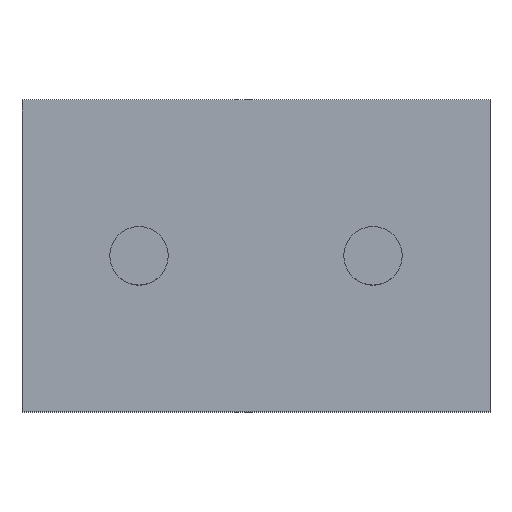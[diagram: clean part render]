
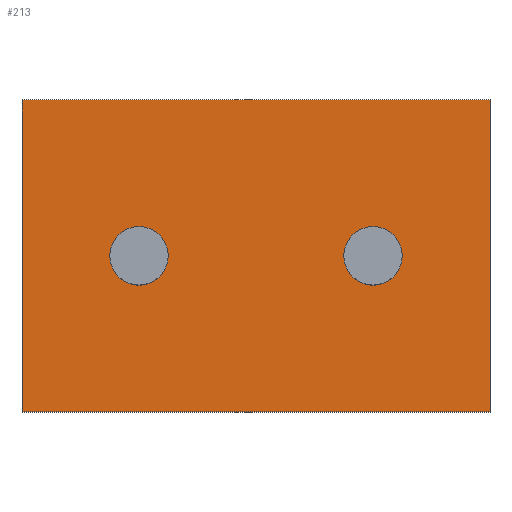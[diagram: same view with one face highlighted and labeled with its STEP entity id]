
A CAD part, top view. The second image highlights one B-rep face of the part: STEP entity #213.
In plain terms, the highlighted planar face has unit normal (0, 0, 1).
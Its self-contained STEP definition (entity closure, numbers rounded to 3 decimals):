
#24 = VERTEX_POINT('',#25);
#25 = CARTESIAN_POINT('',(-60.,-40.,5.));
#32 = PLANE('',#33);
#33 = AXIS2_PLACEMENT_3D('',#34,#35,#36);
#34 = CARTESIAN_POINT('',(-60.,-40.,-5.));
#35 = DIRECTION('',(1.,0.,0.));
#36 = DIRECTION('',(0.,0.,1.));
#44 = PLANE('',#45);
#45 = AXIS2_PLACEMENT_3D('',#46,#47,#48);
#46 = CARTESIAN_POINT('',(-60.,-40.,-5.));
#47 = DIRECTION('',(0.,1.,0.));
#48 = DIRECTION('',(0.,0.,1.));
#85 = VERTEX_POINT('',#86);
#86 = CARTESIAN_POINT('',(-60.,40.,5.));
#100 = PLANE('',#101);
#101 = AXIS2_PLACEMENT_3D('',#102,#103,#104);
#102 = CARTESIAN_POINT('',(-60.,40.,-5.));
#103 = DIRECTION('',(0.,1.,0.));
#104 = DIRECTION('',(0.,0.,1.));
#112 = EDGE_CURVE('',#24,#85,#113,.T.);
#113 = SURFACE_CURVE('',#114,(#118,#125),.PCURVE_S1.);
#114 = LINE('',#115,#116);
#115 = CARTESIAN_POINT('',(-60.,-40.,5.));
#116 = VECTOR('',#117,1.);
#117 = DIRECTION('',(0.,1.,0.));
#118 = PCURVE('',#32,#119);
#119 = DEFINITIONAL_REPRESENTATION('',(#120),#124);
#120 = LINE('',#121,#122);
#121 = CARTESIAN_POINT('',(10.,0.));
#122 = VECTOR('',#123,1.);
#123 = DIRECTION('',(0.,-1.));
#124 = ( GEOMETRIC_REPRESENTATION_CONTEXT(2) 
PARAMETRIC_REPRESENTATION_CONTEXT() REPRESENTATION_CONTEXT('2D SPACE',''
  ) );
#125 = PCURVE('',#126,#131);
#126 = PLANE('',#127);
#127 = AXIS2_PLACEMENT_3D('',#128,#129,#130);
#128 = CARTESIAN_POINT('',(-60.,-40.,5.));
#129 = DIRECTION('',(0.,0.,1.));
#130 = DIRECTION('',(1.,0.,0.));
#131 = DEFINITIONAL_REPRESENTATION('',(#132),#136);
#132 = LINE('',#133,#134);
#133 = CARTESIAN_POINT('',(0.,0.));
#134 = VECTOR('',#135,1.);
#135 = DIRECTION('',(0.,1.));
#136 = ( GEOMETRIC_REPRESENTATION_CONTEXT(2) 
PARAMETRIC_REPRESENTATION_CONTEXT() REPRESENTATION_CONTEXT('2D SPACE',''
  ) );
#165 = EDGE_CURVE('',#24,#166,#168,.T.);
#166 = VERTEX_POINT('',#167);
#167 = CARTESIAN_POINT('',(60.,-40.,5.));
#168 = SURFACE_CURVE('',#169,(#173,#180),.PCURVE_S1.);
#169 = LINE('',#170,#171);
#170 = CARTESIAN_POINT('',(-60.,-40.,5.));
#171 = VECTOR('',#172,1.);
#172 = DIRECTION('',(1.,0.,0.));
#173 = PCURVE('',#44,#174);
#174 = DEFINITIONAL_REPRESENTATION('',(#175),#179);
#175 = LINE('',#176,#177);
#176 = CARTESIAN_POINT('',(10.,0.));
#177 = VECTOR('',#178,1.);
#178 = DIRECTION('',(0.,1.));
#179 = ( GEOMETRIC_REPRESENTATION_CONTEXT(2) 
PARAMETRIC_REPRESENTATION_CONTEXT() REPRESENTATION_CONTEXT('2D SPACE',''
  ) );
#180 = PCURVE('',#126,#181);
#181 = DEFINITIONAL_REPRESENTATION('',(#182),#186);
#182 = LINE('',#183,#184);
#183 = CARTESIAN_POINT('',(0.,0.));
#184 = VECTOR('',#185,1.);
#185 = DIRECTION('',(1.,0.));
#186 = ( GEOMETRIC_REPRESENTATION_CONTEXT(2) 
PARAMETRIC_REPRESENTATION_CONTEXT() REPRESENTATION_CONTEXT('2D SPACE',''
  ) );
#202 = PLANE('',#203);
#203 = AXIS2_PLACEMENT_3D('',#204,#205,#206);
#204 = CARTESIAN_POINT('',(60.,-40.,-5.));
#205 = DIRECTION('',(1.,0.,0.));
#206 = DIRECTION('',(0.,0.,1.));
#213 = ADVANCED_FACE('',(#214,#262,#293),#126,.T.);
#214 = FACE_BOUND('',#215,.T.);
#215 = EDGE_LOOP('',(#216,#217,#218,#241));
#216 = ORIENTED_EDGE('',*,*,#112,.F.);
#217 = ORIENTED_EDGE('',*,*,#165,.T.);
#218 = ORIENTED_EDGE('',*,*,#219,.T.);
#219 = EDGE_CURVE('',#166,#220,#222,.T.);
#220 = VERTEX_POINT('',#221);
#221 = CARTESIAN_POINT('',(60.,40.,5.));
#222 = SURFACE_CURVE('',#223,(#227,#234),.PCURVE_S1.);
#223 = LINE('',#224,#225);
#224 = CARTESIAN_POINT('',(60.,-40.,5.));
#225 = VECTOR('',#226,1.);
#226 = DIRECTION('',(0.,1.,0.));
#227 = PCURVE('',#126,#228);
#228 = DEFINITIONAL_REPRESENTATION('',(#229),#233);
#229 = LINE('',#230,#231);
#230 = CARTESIAN_POINT('',(120.,0.));
#231 = VECTOR('',#232,1.);
#232 = DIRECTION('',(0.,1.));
#233 = ( GEOMETRIC_REPRESENTATION_CONTEXT(2) 
PARAMETRIC_REPRESENTATION_CONTEXT() REPRESENTATION_CONTEXT('2D SPACE',''
  ) );
#234 = PCURVE('',#202,#235);
#235 = DEFINITIONAL_REPRESENTATION('',(#236),#240);
#236 = LINE('',#237,#238);
#237 = CARTESIAN_POINT('',(10.,0.));
#238 = VECTOR('',#239,1.);
#239 = DIRECTION('',(0.,-1.));
#240 = ( GEOMETRIC_REPRESENTATION_CONTEXT(2) 
PARAMETRIC_REPRESENTATION_CONTEXT() REPRESENTATION_CONTEXT('2D SPACE',''
  ) );
#241 = ORIENTED_EDGE('',*,*,#242,.F.);
#242 = EDGE_CURVE('',#85,#220,#243,.T.);
#243 = SURFACE_CURVE('',#244,(#248,#255),.PCURVE_S1.);
#244 = LINE('',#245,#246);
#245 = CARTESIAN_POINT('',(-60.,40.,5.));
#246 = VECTOR('',#247,1.);
#247 = DIRECTION('',(1.,0.,0.));
#248 = PCURVE('',#126,#249);
#249 = DEFINITIONAL_REPRESENTATION('',(#250),#254);
#250 = LINE('',#251,#252);
#251 = CARTESIAN_POINT('',(0.,80.));
#252 = VECTOR('',#253,1.);
#253 = DIRECTION('',(1.,0.));
#254 = ( GEOMETRIC_REPRESENTATION_CONTEXT(2) 
PARAMETRIC_REPRESENTATION_CONTEXT() REPRESENTATION_CONTEXT('2D SPACE',''
  ) );
#255 = PCURVE('',#100,#256);
#256 = DEFINITIONAL_REPRESENTATION('',(#257),#261);
#257 = LINE('',#258,#259);
#258 = CARTESIAN_POINT('',(10.,0.));
#259 = VECTOR('',#260,1.);
#260 = DIRECTION('',(0.,1.));
#261 = ( GEOMETRIC_REPRESENTATION_CONTEXT(2) 
PARAMETRIC_REPRESENTATION_CONTEXT() REPRESENTATION_CONTEXT('2D SPACE',''
  ) );
#262 = FACE_BOUND('',#263,.T.);
#263 = EDGE_LOOP('',(#264));
#264 = ORIENTED_EDGE('',*,*,#265,.F.);
#265 = EDGE_CURVE('',#266,#266,#268,.T.);
#266 = VERTEX_POINT('',#267);
#267 = CARTESIAN_POINT('',(-22.5,0.,5.));
#268 = SURFACE_CURVE('',#269,(#274,#281),.PCURVE_S1.);
#269 = CIRCLE('',#270,7.5);
#270 = AXIS2_PLACEMENT_3D('',#271,#272,#273);
#271 = CARTESIAN_POINT('',(-30.,0.,5.));
#272 = DIRECTION('',(0.,0.,1.));
#273 = DIRECTION('',(1.,0.,0.));
#274 = PCURVE('',#126,#275);
#275 = DEFINITIONAL_REPRESENTATION('',(#276),#280);
#276 = CIRCLE('',#277,7.5);
#277 = AXIS2_PLACEMENT_2D('',#278,#279);
#278 = CARTESIAN_POINT('',(30.,40.));
#279 = DIRECTION('',(1.,0.));
#280 = ( GEOMETRIC_REPRESENTATION_CONTEXT(2) 
PARAMETRIC_REPRESENTATION_CONTEXT() REPRESENTATION_CONTEXT('2D SPACE',''
  ) );
#281 = PCURVE('',#282,#287);
#282 = CYLINDRICAL_SURFACE('',#283,7.5);
#283 = AXIS2_PLACEMENT_3D('',#284,#285,#286);
#284 = CARTESIAN_POINT('',(-30.,0.,5.));
#285 = DIRECTION('',(-0.,-0.,-1.));
#286 = DIRECTION('',(1.,0.,0.));
#287 = DEFINITIONAL_REPRESENTATION('',(#288),#292);
#288 = LINE('',#289,#290);
#289 = CARTESIAN_POINT('',(-0.,0.));
#290 = VECTOR('',#291,1.);
#291 = DIRECTION('',(-1.,0.));
#292 = ( GEOMETRIC_REPRESENTATION_CONTEXT(2) 
PARAMETRIC_REPRESENTATION_CONTEXT() REPRESENTATION_CONTEXT('2D SPACE',''
  ) );
#293 = FACE_BOUND('',#294,.T.);
#294 = EDGE_LOOP('',(#295));
#295 = ORIENTED_EDGE('',*,*,#296,.F.);
#296 = EDGE_CURVE('',#297,#297,#299,.T.);
#297 = VERTEX_POINT('',#298);
#298 = CARTESIAN_POINT('',(37.5,0.,5.));
#299 = SURFACE_CURVE('',#300,(#305,#312),.PCURVE_S1.);
#300 = CIRCLE('',#301,7.5);
#301 = AXIS2_PLACEMENT_3D('',#302,#303,#304);
#302 = CARTESIAN_POINT('',(30.,0.,5.));
#303 = DIRECTION('',(0.,0.,1.));
#304 = DIRECTION('',(1.,0.,0.));
#305 = PCURVE('',#126,#306);
#306 = DEFINITIONAL_REPRESENTATION('',(#307),#311);
#307 = CIRCLE('',#308,7.5);
#308 = AXIS2_PLACEMENT_2D('',#309,#310);
#309 = CARTESIAN_POINT('',(90.,40.));
#310 = DIRECTION('',(1.,0.));
#311 = ( GEOMETRIC_REPRESENTATION_CONTEXT(2) 
PARAMETRIC_REPRESENTATION_CONTEXT() REPRESENTATION_CONTEXT('2D SPACE',''
  ) );
#312 = PCURVE('',#313,#318);
#313 = CYLINDRICAL_SURFACE('',#314,7.5);
#314 = AXIS2_PLACEMENT_3D('',#315,#316,#317);
#315 = CARTESIAN_POINT('',(30.,0.,5.));
#316 = DIRECTION('',(-0.,-0.,-1.));
#317 = DIRECTION('',(1.,0.,0.));
#318 = DEFINITIONAL_REPRESENTATION('',(#319),#323);
#319 = LINE('',#320,#321);
#320 = CARTESIAN_POINT('',(-0.,0.));
#321 = VECTOR('',#322,1.);
#322 = DIRECTION('',(-1.,0.));
#323 = ( GEOMETRIC_REPRESENTATION_CONTEXT(2) 
PARAMETRIC_REPRESENTATION_CONTEXT() REPRESENTATION_CONTEXT('2D SPACE',''
  ) );
